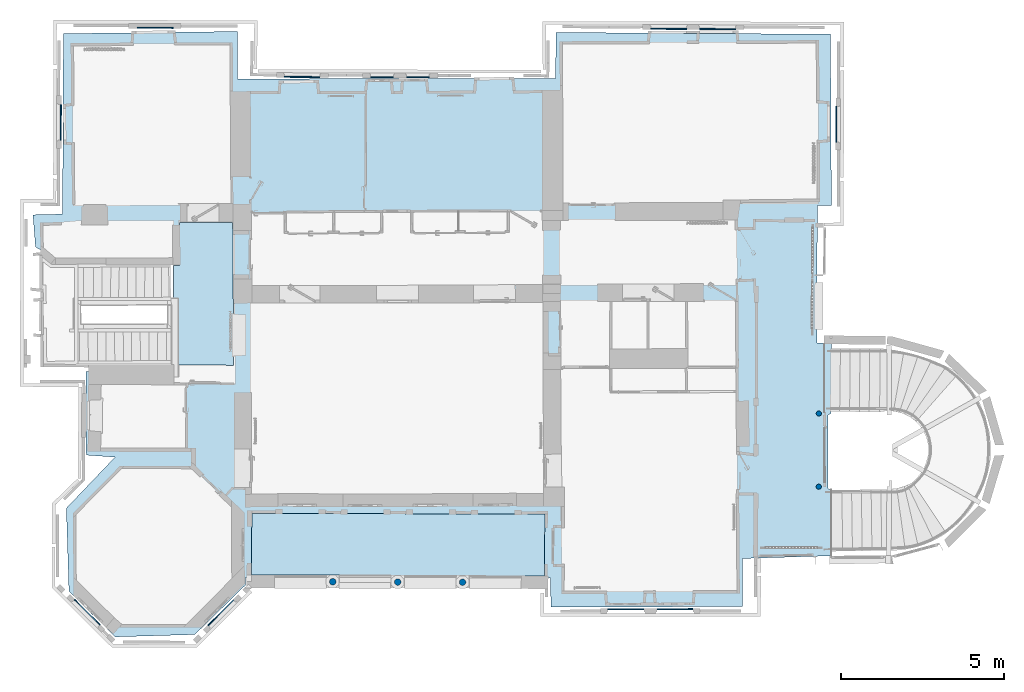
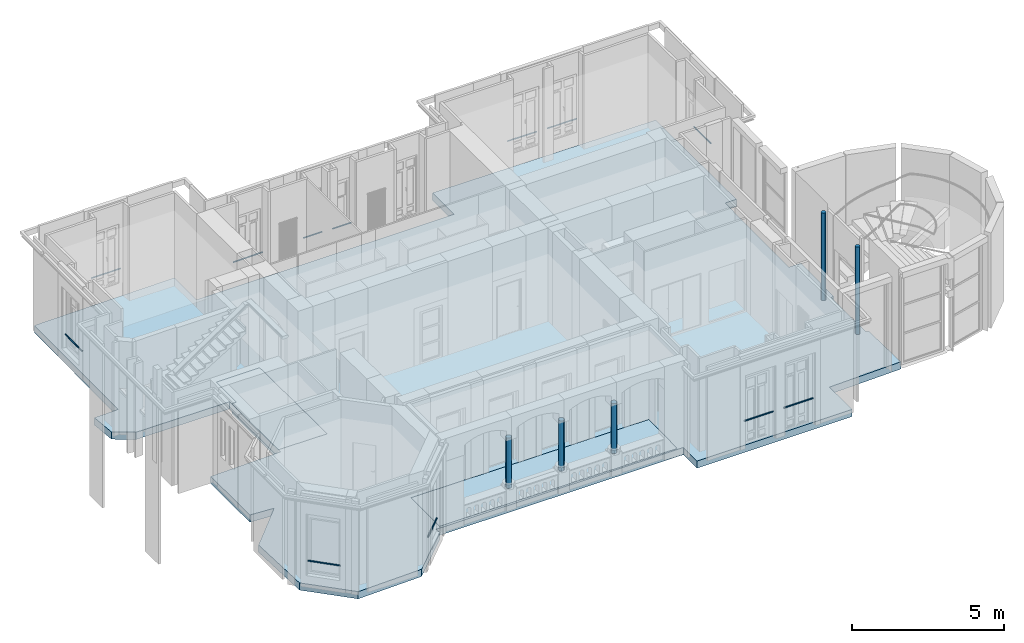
# One storey, part 1 of 66: 12 beams, 5 columns, 3 slabs.
"""IFC2X3 building model written with IfcOpenShell, lengths in centimetres."""

from ifc_helpers import new_model, entity, si_unit, converted_unit, direction, frame, origin, origin_with_axes, origin_2d_with_axis, place, context, subcontext, project, spatial, polyline, circle, outline, extrude, source, transform, mapped, material, layer, layer_set, layer_usage, type_object, element, save


model = new_model("IFC2X3")

# Units and contexts
model_context = context("Model", 3, precision=0.0001, world=origin(), true_north=direction((0.225632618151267, 0.974212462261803, 0.0)))
body_context = subcontext(model_context, "Body", "Model", "MODEL_VIEW")
ifc_project = project(units=[si_unit("LENGTHUNIT", "METRE", prefix="CENTI"), si_unit("AREAUNIT", "SQUARE_METRE", prefix="CENTI"), si_unit("VOLUMEUNIT", "CUBIC_METRE", prefix="CENTI"), converted_unit("PLANEANGLEUNIT", "DEGREE", entity("IfcRatioMeasure", 0.0174532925), si_unit("PLANEANGLEUNIT", "RADIAN"), dimensions=[0, 0, 0, 0, 0, 0, 0])], contexts=[model_context])

# Site, building, storey
site_placement = place(None, origin_with_axes())
site = spatial("IfcSite", under=ifc_project, at=site_placement, Name="Default Site", CompositionType="ELEMENT")
building_placement = place(site_placement, origin_with_axes())
building = spatial("IfcBuilding", under=site, at=building_placement, Name="Default Building", CompositionType="ELEMENT")
storey_placement = place(building_placement, frame((0.0, 0.0, 477.795358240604), z_axis=(0.0, 0.0, 1.0), x_axis=(1.0, 0.0, 0.0)))
storey = spatial("IfcBuildingStorey", under=building, at=storey_placement, Name="Niveau 1", CompositionType="ELEMENT", Elevation=477.795358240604)

# Columns
ifc_material_1 = material(Name="Aluminium mat")
column_type_1 = type_object("IfcColumnType", Name="RND 160", PredefinedType="USERDEFINED", material=ifc_material_1)
shared_shape_1 = source(origin_with_axes(), body_context, "Body", "SweptSolid", [
    extrude(circle(Radius=8.0, at=origin_2d_with_axis()), origin_with_axes(), (0.0, 0.0, 1.0), 100.0),
])
for number, where, z_axis, x_axis, name in (
    (1, (1083.95999999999, -435.309999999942, 0.0), (0.0, 0.0, 1.0), (1.0, 0.0, 0.0), "Poteau Acier 718697"),
    (2, (1083.70000000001, -660.200000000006, 0.0), (0.0, 0.0, 1.0), (1.0, 0.0, 0.0), "Poteau Acier 718694"),
):
    element("IfcColumn", number, at=place(storey_placement, frame(where, z_axis=z_axis, x_axis=x_axis)), inside=storey, type_object=column_type_1, material=ifc_material_1, Name=name, ObjectType="column", context=body_context, shape_type="MappedRepresentation", body=[
        mapped(shared_shape_1, transform((0.0, 0.0, 0.0), x_axis=(1.0, 0.0, 0.0), y_axis=(0.0, 1.0, 0.0), z_axis=(0.0, 0.0, 1.0), scale=1.0, scale2=1.0, scale3=3.51115015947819, uniform=False)),
    ])
ifc_material_2 = material(Name="Pierre du saint gottard")
column_type_2 = type_object("IfcColumnType", Name="Ø200", PredefinedType="USERDEFINED", material=ifc_material_2)
shared_shape_2 = source(origin_with_axes(), body_context, "Body", "SweptSolid", [
    extrude(circle(Radius=10.0, at=origin_2d_with_axis()), origin_with_axes(), (0.0, 0.0, 1.0), 100.0),
])
for number, where, z_axis, x_axis, name in (
    (3, (-11.3177625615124, -953.918395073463, 85.0), (0.0, 0.0, 1.0), (1.0, 0.0, 0.0), "Poteau 440361"),
    (4, (-410.538318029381, -952.465633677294, 85.0), (0.0, 0.0, 1.0), (1.0, 0.0, 0.0), "Poteau 440337"),
    (5, (-210.817821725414, -953.404347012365, 85.0), (0.0, 0.0, 1.0), (1.0, 0.0, 0.0), "Poteau 440354"),
):
    element("IfcColumn", number, at=place(storey_placement, frame(where, z_axis=z_axis, x_axis=x_axis)), inside=storey, type_object=column_type_2, material=ifc_material_2, Name=name, ObjectType="column", context=body_context, shape_type="MappedRepresentation", body=[
        mapped(shared_shape_2, transform((0.0, 0.0, 0.0), x_axis=(1.0, 0.0, 0.0), y_axis=(0.0, 1.0, 0.0), z_axis=(0.0, 0.0, 1.0), scale=1.0, scale2=1.0, scale3=2.01115015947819, uniform=False)),
    ])

# Beams
beam_type = type_object("IfcBeamType", Name="RND 35", PredefinedType="NOTDEFINED", material=ifc_material_1)
shared_shape_3 = source(origin_with_axes(), body_context, "Body", "SweptSolid", [
    extrude(circle(Radius=1.75, at=origin_2d_with_axis()), origin_with_axes(), (0.0, 0.0, 1.0), 100.0),
])
beam_1_placement = place(storey_placement, frame((828.181865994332, 744.749426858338, 99.7684845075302), z_axis=(0.999996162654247, -0.0027703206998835, 0.0), x_axis=(0.0027703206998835, 0.999996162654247, 0.0)))
element("IfcBeam", 6, at=beam_1_placement, inside=storey, type_object=beam_type, material=ifc_material_1, Name="Poutre en Acier 1549929", ObjectType="beam", context=body_context, shape_type="MappedRepresentation", body=[
    mapped(shared_shape_3, transform((1.75000000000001, -1.75000000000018, 0.0), x_axis=(1.0, 0.0, 0.0), y_axis=(0.0, 1.0, 0.0), z_axis=(-3.92151106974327e-19, 0.0, -1.0), scale=1.0, scale2=1.0, scale3=1.10590244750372, uniform=False)),
])
beam_2_placement = place(storey_placement, frame((1135.67244086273, 399.291742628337, 103.115015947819), z_axis=(-0.00334694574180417, -0.999994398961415, 9.62964972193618e-35), x_axis=(0.999994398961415, -0.00334694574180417, -2.44929359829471e-16)))
element("IfcBeam", 7, at=beam_2_placement, inside=storey, type_object=beam_type, material=ifc_material_1, Name="Poutre en Acier 1549896", ObjectType="beam", context=body_context, shape_type="MappedRepresentation", body=[
    mapped(shared_shape_3, transform((1.75000000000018, -1.74999999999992, 0.0), x_axis=(1.0, 0.0, -4.71716788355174e-50), y_axis=(0.0, 1.0, 0.0), z_axis=(-3.94652928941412e-19, 7.89646101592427e-35, -1.0), scale=1.0, scale2=1.0, scale3=1.09889180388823, uniform=False)),
])
beam_3_placement = place(storey_placement, frame((-113.769269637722, 596.415668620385, 102.115015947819), z_axis=(0.999997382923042, -0.00228782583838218, 0.0), x_axis=(0.00228782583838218, 0.999997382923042, 0.0)))
element("IfcBeam", 8, at=beam_3_placement, inside=storey, type_object=beam_type, material=ifc_material_1, Name="Poutre en Acier 1550090", ObjectType="beam", context=body_context, shape_type="MappedRepresentation", body=[
    mapped(shared_shape_3, transform((1.7500000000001, -1.75000000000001, 0.0), x_axis=(1.0, 0.0, 0.0), y_axis=(0.0, 1.0, 0.0), z_axis=(0.0, 0.0, -1.0), scale=1.0, scale2=1.0, scale3=0.696726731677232, uniform=False)),
])
beam_4_placement = place(storey_placement, frame((677.169717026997, 745.16778054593, 100.795340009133), z_axis=(0.999996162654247, -0.00277032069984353, 0.0), x_axis=(0.00277032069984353, 0.999996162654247, 0.0)))
element("IfcBeam", 9, at=beam_4_placement, inside=storey, type_object=beam_type, material=ifc_material_1, Name="Poutre en Acier 1550015", ObjectType="beam", context=body_context, shape_type="MappedRepresentation", body=[
    mapped(shared_shape_3, transform((1.75000000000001, -1.75000000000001, 0.0), x_axis=(1.0, 0.0, 0.0), y_axis=(0.0, 1.0, 0.0), z_axis=(0.0, 0.0, -1.0), scale=1.0, scale2=1.0, scale3=1.09718944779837, uniform=False)),
])
beam_5_placement = place(storey_placement, frame((435.794309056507, -1035.21213084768, 105.110652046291), z_axis=(-0.999997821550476, -0.00208731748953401, 0.0), x_axis=(0.00208731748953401, -0.999997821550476, 0.0)))
element("IfcBeam", 10, at=beam_5_placement, inside=storey, type_object=beam_type, material=ifc_material_1, Name="Poutre en Acier 1550466", ObjectType="beam", context=body_context, shape_type="MappedRepresentation", body=[
    mapped(shared_shape_3, transform((1.75000000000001, -1.75000000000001, -8.88178419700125e-14), x_axis=(1.0, 0.0, 0.0), y_axis=(0.0, 1.0, 0.0), z_axis=(0.0, 0.0, -1.0), scale=1.0, scale2=1.0, scale3=1.09984765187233, uniform=False)),
])
beam_6_placement = place(storey_placement, frame((-794.733571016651, -1085.2469231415, 101.035760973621), z_axis=(-0.708650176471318, -0.705560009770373, 2.46519032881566e-32), x_axis=(0.705560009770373, -0.708650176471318, -2.44929359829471e-16)))
element("IfcBeam", 11, at=beam_6_placement, inside=storey, type_object=beam_type, material=ifc_material_1, Name="Poutre en Acier 1550348", ObjectType="beam", context=body_context, shape_type="MappedRepresentation", body=[
    mapped(shared_shape_3, transform((1.74999999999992, -1.75000000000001, 0.0), x_axis=(1.0, 0.0, -6.03797489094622e-48), y_axis=(0.0, 1.0, 0.0), z_axis=(6.03797489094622e-48, 2.01440878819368e-32, -1.0), scale=1.0, scale2=1.0, scale3=1.10062988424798, uniform=False)),
])
beam_7_placement = place(storey_placement, frame((586.661823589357, -1034.89722175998, 105.088894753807), z_axis=(-0.999997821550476, -0.00208731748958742, 0.0), x_axis=(0.00208731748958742, -0.999997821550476, 0.0)))
element("IfcBeam", 12, at=beam_7_placement, inside=storey, type_object=beam_type, material=ifc_material_1, Name="Poutre en Acier 1550499", ObjectType="beam", context=body_context, shape_type="MappedRepresentation", body=[
    mapped(shared_shape_3, transform((1.75000000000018, -1.75000000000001, 0.0), x_axis=(1.0, 0.0, 0.0), y_axis=(0.0, 1.0, 0.0), z_axis=(0.0, 0.0, -1.0), scale=1.0, scale2=1.0, scale3=1.09984765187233, uniform=False)),
])
beam_8_placement = place(storey_placement, frame((-1124.9174911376, -1083.6225661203, 100.653808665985), z_axis=(0.708665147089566, -0.705544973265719, 0.0), x_axis=(0.705544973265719, 0.708665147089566, 0.0)))
element("IfcBeam", 13, at=beam_8_placement, inside=storey, type_object=beam_type, material=ifc_material_1, Name="Poutre en Acier 1550296", ObjectType="beam", context=body_context, shape_type="MappedRepresentation", body=[
    mapped(shared_shape_3, transform((-1.74999999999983, -1.75000000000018, 0.0), x_axis=(1.0, 0.0, 0.0), y_axis=(0.0, 1.0, 0.0), z_axis=(0.0, 0.0, -1.0), scale=1.0, scale2=1.0, scale3=1.09862496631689, uniform=False)),
])
beam_9_placement = place(storey_placement, frame((-449.748493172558, 597.184332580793, 100.963276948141), z_axis=(0.999806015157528, -0.00646909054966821, 0.0186033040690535), x_axis=(0.00647021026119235, 0.999979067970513, 2.47144406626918e-16)))
element("IfcBeam", 14, at=beam_9_placement, inside=storey, type_object=beam_type, material=ifc_material_1, Name="Poutre en Acier 1550203", ObjectType="beam", context=body_context, shape_type="MappedRepresentation", body=[
    mapped(shared_shape_3, transform((1.75000000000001, -1.74999999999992, 1.77635683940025e-13), x_axis=(1.0, 9.27507410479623e-20, -2.34069681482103e-18), y_axis=(1.14473048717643e-20, 1.0, 0.0), z_axis=(2.52370645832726e-18, -6.32946038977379e-18, -1.0), scale=1.0, scale2=1.0, scale3=1.09628522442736, uniform=False)),
])
beam_10_placement = place(storey_placement, frame((-224.037124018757, 596.667942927, 103.865015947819), z_axis=(0.999997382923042, -0.00228782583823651, 0.0), x_axis=(0.00228782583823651, 0.999997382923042, -2.44929359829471e-16)))
element("IfcBeam", 15, at=beam_10_placement, inside=storey, type_object=beam_type, material=ifc_material_1, Name="Poutre en Acier 1550172", ObjectType="beam", context=body_context, shape_type="MappedRepresentation", body=[
    mapped(shared_shape_3, transform((1.75000000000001, -1.75000000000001, 0.0), x_axis=(1.0, 0.0, 0.0), y_axis=(0.0, 1.0, 0.0), z_axis=(0.0, 6.90818639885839e-35, -1.0), scale=1.0, scale2=1.0, scale3=0.696973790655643, uniform=False)),
])
beam_11_placement = place(storey_placement, frame((-1244.73300533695, 405.071731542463, 100.566965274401), z_axis=(-0.00541552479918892, -0.999985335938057, 0.0), x_axis=(0.999985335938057, -0.00541552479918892, 0.0)))
element("IfcBeam", 16, at=beam_11_placement, inside=storey, type_object=beam_type, material=ifc_material_1, Name="Poutre en Acier 1550265", ObjectType="beam", context=body_context, shape_type="MappedRepresentation", body=[
    mapped(shared_shape_3, transform((-1.75000000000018, -1.74999999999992, 0.0), x_axis=(1.0, 0.0, 0.0), y_axis=(0.0, 1.0, 0.0), z_axis=(-7.91073202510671e-19, 0.0, -1.0), scale=1.0, scale2=1.0, scale3=1.09643675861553, uniform=False)),
])
beam_12_placement = place(storey_placement, frame((-901.184658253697, 748.413303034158, 101.774764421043), z_axis=(0.999999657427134, -0.000827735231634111, 0.0), x_axis=(0.000827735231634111, 0.999999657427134, -2.44929359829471e-16)))
element("IfcBeam", 17, at=beam_12_placement, inside=storey, type_object=beam_type, material=ifc_material_1, Name="Poutre en Acier 1550234", ObjectType="beam", context=body_context, shape_type="MappedRepresentation", body=[
    mapped(shared_shape_3, transform((1.7500000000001, -1.7500000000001, 0.0), x_axis=(1.0, 4.93038065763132e-32, 0.0), y_axis=(0.0, 1.0, 0.0), z_axis=(0.0, 0.0, -1.0), scale=1.0, scale2=1.0, scale3=1.10087071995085, uniform=False)),
])

# Slabs
ifc_material_3 = material(Name="Carreaux en céramique")
ifc_layer_1 = layer(ifc_material_3, 1.5)
ifc_material_4 = material(Name="Chape ordinaire")
ifc_layer_2 = layer(ifc_material_4, 4.0)
ifc_material_5 = material(Name="Dalle plane terre-cuite-ciment isolée")
ifc_layer_3 = layer(ifc_material_5, 22.5)
ifc_material_6 = material(Name="Enduit intérieur")
ifc_layer_4 = layer(ifc_material_6, 1.0)
ifc_layer_set_1 = layer_set([ifc_layer_1, ifc_layer_2, ifc_layer_3, ifc_layer_4], Name="Plancher en brique-ciment")
ifc_layer_usage_1 = layer_usage(ifc_layer_set_1, "AXIS3", "POSITIVE", 0.0)
slab_type_1 = type_object("IfcSlabType", Name="Plancher en brique-ciment 290", PredefinedType="NOTDEFINED", material=ifc_layer_set_1)
slab_1_placement = place(storey_placement, frame((1082.47985045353, -263.419202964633, -28.9999999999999), z_axis=(0.0, 0.0, 1.0), x_axis=(1.0, 0.0, 0.0)))
element("IfcSlab", 18, at=slab_1_placement, inside=storey, type_object=slab_type_1, material=ifc_layer_usage_1, Name="Enveloppe horizontale 567347", PredefinedType="NOTDEFINED", context=body_context, shape_type="SweptSolid", body=[
    extrude(outline(polyline([(37.3998377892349, 994.31327923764), (40.2562520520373, 468.063775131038), (-2.83580373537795, 468.266905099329), (-4.82985045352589, 45.2492029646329), (41.1285169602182, 45.0325616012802), (38.9851030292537, -171.699178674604), (29.2400294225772, -176.222261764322), (28.93784720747, -401.695743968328), (39.2156305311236, -407.459439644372), (42.7104651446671, -609.261976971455), (-233.109850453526, -617.600797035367), (-232.600115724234, -765.152679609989), (-822.569850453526, -767.190797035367), (-822.88080825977, -677.178468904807), (-1760.63985045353, -676.730797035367), (-1760.65033445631, -698.692124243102), (-1916.91985045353, -851.340797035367), (-2161.76985045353, -858.540797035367), (-2303.93962953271, -718.26378029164), (-2311.98607889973, -462.97381885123), (-2162.1920586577, -305.925937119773), (-2250.69409829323, -299.622504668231), (-2251.48058062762, -43.4462765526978), (-1982.52375498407, -36.6049857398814), (-1983.52214750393, 296.112613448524), (-2337.22985045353, 298.269202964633), (-2406.75954383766, 340.168418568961), (-2414.67503133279, 439.054103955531), (-2323.60026993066, 441.319379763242), (-2321.0645916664, 996.15576161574), (-1785.32703969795, 1002.7364502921), (-1785.23985045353, 857.219202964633), (-807.732737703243, 857.804893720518), (-806.815372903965, 999.768571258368), (37.3998377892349, 994.31327923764)])), origin_with_axes(), (0.0, 0.0, 1.0), 29.0),
])
ifc_material_7 = material(Name="<aucun>")
ifc_layer_5 = layer(ifc_material_7, 9.0)
ifc_layer_set_2 = layer_set([ifc_layer_5], Name="default")
ifc_layer_usage_2 = layer_usage(ifc_layer_set_2, "AXIS3", "POSITIVE", 0.0)
slab_type_2 = type_object("IfcSlabType", Name="default 90", PredefinedType="NOTDEFINED", material=ifc_layer_set_2)
slab_2_placement = place(storey_placement, frame((-159.300436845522, -788.281194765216, -8.99999999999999), z_axis=(0.0, 0.0, 1.0), x_axis=(1.0, 0.0, 0.0)))
element("IfcSlab", 19, at=slab_2_placement, inside=storey, type_object=slab_type_2, material=ifc_layer_usage_2, Name="Dalle 449510", PredefinedType="NOTDEFINED", context=body_context, shape_type="SweptSolid", body=[
    extrude(outline(polyline([(-499.992736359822, 46.0960897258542), (401.120443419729, 43.7619566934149), (399.474357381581, -147.013797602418), (-500.602064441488, -142.844248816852), (-499.992736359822, 46.0960897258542)])), origin_with_axes(), (0.0, 0.0, 1.0), 9.0),
])
ifc_layer_6 = layer(ifc_material_7, 40.0)
ifc_layer_set_3 = layer_set([ifc_layer_6], Name="default")
ifc_layer_usage_3 = layer_usage(ifc_layer_set_3, "AXIS3", "POSITIVE", 0.0)
slab_type_3 = type_object("IfcSlabType", Name="default 400", PredefinedType="NOTDEFINED", material=ifc_layer_set_3)
slab_3_placement = place(storey_placement, frame((-792.465957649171, 4.32707249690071, -40.0), z_axis=(0.0, 0.0, 1.0), x_axis=(1.0, 0.0, 0.0)))
element("IfcSlab", 20, at=slab_3_placement, inside=storey, type_object=slab_type_3, material=ifc_layer_usage_3, Name="Enveloppe horizontale 13222", PredefinedType="NOTDEFINED", context=body_context, shape_type="SweptSolid", body=[
    extrude(outline(polyline([(-89.5695025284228, 147.449368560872), (-89.8377418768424, 15.0369116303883), (-108.047547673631, 14.9036744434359), (-107.496675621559, -94.1649078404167), (-107.139224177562, -290.072610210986), (77.6115327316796, -291.361485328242), (74.4791591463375, 148.209048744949), (-89.5695025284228, 147.449368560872)])), origin_with_axes(), (0.0, 0.0, 1.0), 40.0),
])

save(model, "model.ifc")
